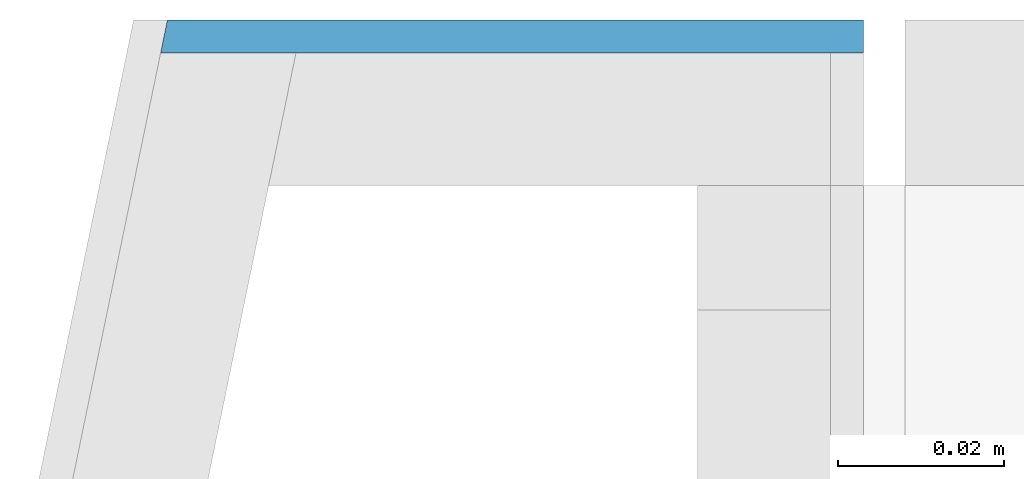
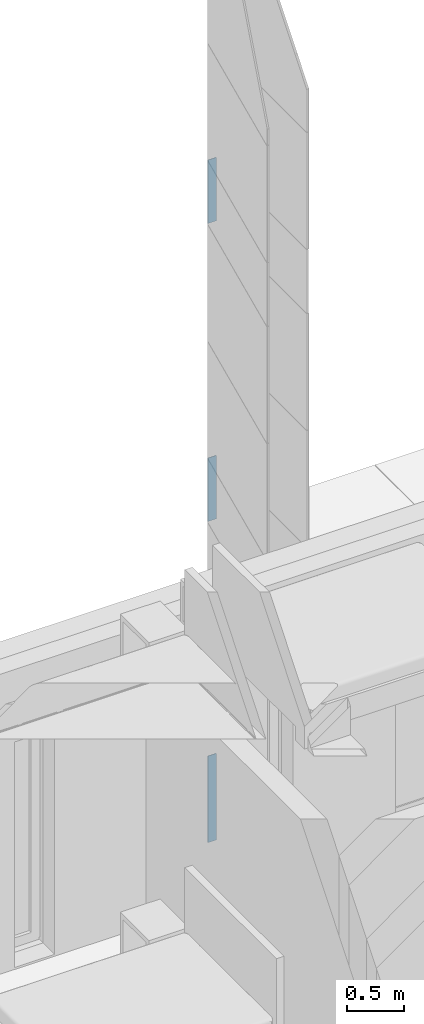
# One storey, part 35 of 125: 3 building element parts, 1 element without a shape of its own.
"""IFC2X3 building model written with IfcOpenShell, lengths in millimetres."""

import ifcopenshell
import ifcopenshell.guid

model = None  # the IFC model being written
_history = None  # IfcOwnerHistory: only IFC2X3 demands one
_inside = {}  # id of a spatial element -> (the spatial element, [elements in it])
_under = {}  # id of a project, library or spatial element -> (it, [spatial elements below it])
_declared = {}  # id of a project -> (the project, [libraries it declares])
_typed = {}  # id of a type object -> (the type object, [elements of that type])
_made_of = {}  # id of a material, layer set ... -> (it, [elements and type objects made of it])


def new_model(schema):
    """Start an empty IFC model of exactly this schema.

    Asked for "IFC4X3", IfcOpenShell would pick the latest addendum, in which some entities
    have other attributes; the version numbers below select the first issue.
    IFC2X3 requires an IfcOwnerHistory on every rooted entity: one is made here for all.
    """
    global model, _history
    if schema == "IFC4X3":
        model = ifcopenshell.file(schema_version=(4, 3, 0, 0))
    else:
        model = ifcopenshell.file(schema=schema)
    _inside.clear()
    _under.clear()
    _declared.clear()
    _typed.clear()
    _made_of.clear()
    _history = None
    if model.schema == "IFC2X3":
        org = make("IfcOrganization", Name="unknown")
        user = make(
            "IfcPersonAndOrganization",
            ThePerson=make("IfcPerson", FamilyName="unknown"),
            TheOrganization=org,
        )
        app = make(
            "IfcApplication",
            ApplicationDeveloper=org,
            Version="unknown",
            ApplicationFullName="unknown",
            ApplicationIdentifier="unknown",
        )
        _history = make(
            "IfcOwnerHistory",
            OwningUser=user,
            OwningApplication=app,
            ChangeAction="ADDED",
            CreationDate=0,
        )
    return model


def make(cls, **values):
    """One entity of the class cls with the attributes given. An attribute that is None is left unset."""
    return model.create_entity(
        cls, **{name: value for name, value in values.items() if value is not None}
    )


def entity(cls, *values):
    """Any entity or typed value of the class cls, its attributes in the order of the schema. None: left unset."""
    e = model.create_entity(cls)
    for i, value in enumerate(values):
        if value is not None:
            e[i] = value
    return e


def rooted(cls, **values):
    """An entity with a GlobalId (a new one), such as an element, a storey or a relation."""
    return make(cls, GlobalId=ifcopenshell.guid.new(), OwnerHistory=_history, **values)


def si_unit(unit_type, name, prefix=None):
    """IfcSIUnit, for example si_unit("LENGTHUNIT", "METRE", prefix="MILLI")."""
    return make("IfcSIUnit", UnitType=unit_type, Prefix=prefix, Name=name)


def converted_unit(unit_type, name, factor, base, dimensions=None, offset=None):
    """IfcConversionBasedUnit, such as the inch: factor (a typed value) times the base unit."""
    return make(
        "IfcConversionBasedUnit"
        if offset is None
        else "IfcConversionBasedUnitWithOffset",
        ConversionOffset=offset,
        Dimensions=None
        if dimensions is None
        else entity("IfcDimensionalExponents", *dimensions),
        UnitType=unit_type,
        Name=name,
        ConversionFactor=make(
            "IfcMeasureWithUnit", ValueComponent=factor, UnitComponent=base
        ),
    )


def assignment(units):
    """IfcUnitAssignment: the units of a project."""
    return None if units is None else make("IfcUnitAssignment", Units=units)


def point(xyz):
    """IfcCartesianPoint."""
    return None if xyz is None else make("IfcCartesianPoint", Coordinates=xyz)


def direction(xyz):
    """IfcDirection."""
    return None if xyz is None else make("IfcDirection", DirectionRatios=xyz)


def frame(location, z_axis=None, x_axis=None):
    """IfcAxis2Placement3D, a coordinate frame: its origin and axes. An axis left out is left unset."""
    return make(
        "IfcAxis2Placement3D",
        Location=point(location),
        Axis=direction(z_axis),
        RefDirection=direction(x_axis),
    )


def origin():
    """The frame at (0, 0, 0) with its axes left unset."""
    return frame((0.0, 0.0, 0.0))


def place(relative_to, where):
    """IfcLocalPlacement: puts the frame where relative to a parent placement (None: the world)."""
    return make(
        "IfcLocalPlacement", PlacementRelTo=relative_to, RelativePlacement=where
    )


def context(
    kind, dimensions, precision=None, world=None, true_north=None, identifier=None
):
    """IfcGeometricRepresentationContext, for example the 3D "Model" context."""
    return make(
        "IfcGeometricRepresentationContext",
        ContextIdentifier=identifier,
        ContextType=kind,
        CoordinateSpaceDimension=dimensions,
        Precision=precision,
        WorldCoordinateSystem=world,
        TrueNorth=true_north,
    )


def subcontext(parent, identifier, kind, view, scale=None):
    """IfcGeometricRepresentationSubContext, for example "Body" below "Model"."""
    return make(
        "IfcGeometricRepresentationSubContext",
        ContextIdentifier=identifier,
        ContextType=kind,
        ParentContext=parent,
        TargetScale=scale,
        TargetView=view,
    )


def project(units=None, contexts=None):
    """IfcProject with its units and contexts."""
    return rooted(
        "IfcProject",
        Name="project",
        RepresentationContexts=contexts,
        UnitsInContext=assignment(units),
    )


def spatial(cls, under=None, at=None, **own):
    """A site, building, storey or space (cls), placed at a placement, below another one or the project."""
    s = rooted(cls, ObjectPlacement=at, **own)
    if under is not None:
        _under.setdefault(under.id(), (under, []))[1].append(s)
    return s


def polyline(points):
    """IfcPolyline through the points."""
    return make("IfcPolyline", Points=[point(p) for p in points])


def outline(outer, holes=None, kind="AREA"):
    """IfcArbitraryClosedProfileDef: a profile drawn as a closed curve; with holes, ...WithVoids."""
    if holes is None:
        return make("IfcArbitraryClosedProfileDef", ProfileType=kind, OuterCurve=outer)
    return make(
        "IfcArbitraryProfileDefWithVoids",
        ProfileType=kind,
        OuterCurve=outer,
        InnerCurves=holes,
    )


def extrude(swept, where, along, depth):
    """IfcExtrudedAreaSolid: the profile swept, set in the frame where, extruded along a direction by depth."""
    return make(
        "IfcExtrudedAreaSolid",
        SweptArea=swept,
        Position=where,
        ExtrudedDirection=direction(along),
        Depth=depth,
    )


def shape(context_of_items, identifier, shape_type, items):
    """IfcShapeRepresentation: the items that make up one representation, for example the "Body"."""
    return make(
        "IfcShapeRepresentation",
        ContextOfItems=context_of_items,
        RepresentationIdentifier=identifier,
        RepresentationType=shape_type,
        Items=items,
    )


def material(Name=None, Category=None):
    """IfcMaterial."""
    return make("IfcMaterial", Name=Name, Category=Category)


def made_of(thing, what):
    """Note that an element or type object is made of a material, layer set ...; save() writes the relation."""
    if what is not None:
        _made_of.setdefault(what.id(), (what, []))[1].append(thing)
    return thing


def type_object(cls, material=None, **own):
    """A type object (cls), such as IfcWallType, which elements share."""
    return made_of(rooted(cls, **own), material)


def element(
    cls,
    number,
    at=None,
    inside=None,
    cuts=None,
    type_object=None,
    material=None,
    context=None,
    identifier="Body",
    shape_type=None,
    held_by="IfcProductDefinitionShape",
    body=None,
    shapes=None,
    **own,
):
    """One element of the class cls, such as IfcWall. Its Tag is "e" and its number.

    at: its placement. inside: the storey or other place that contains it. cuts: it is an
    opening in that element (IfcRelVoidsElement). A single representation is given by context,
    identifier, shape_type and body (its items); several are given by shapes. held_by: the class
    of the entity that holds the representations. save() writes the other relations.
    """
    e = rooted(cls, Tag="e%d" % number, ObjectPlacement=at, **own)
    if body is not None:
        shapes = [shape(context, identifier, shape_type, body)]
    if shapes is not None:
        e.Representation = make(held_by, Representations=shapes)
    if inside is not None:
        _inside.setdefault(inside.id(), (inside, []))[1].append(e)
    if cuts is not None:
        rooted(
            "IfcRelVoidsElement", RelatingBuildingElement=cuts, RelatedOpeningElement=e
        )
    if type_object is not None:
        _typed.setdefault(type_object.id(), (type_object, []))[1].append(e)
    return made_of(e, material)


def aggregate(whole, parts):
    """IfcRelAggregates: a whole, such as a stair, and the parts it consists of."""
    return rooted("IfcRelAggregates", RelatingObject=whole, RelatedObjects=parts)


def save(model, path):
    """Write the relations noted so far, then the file.

    IfcRelAggregates (storeys below a building ...), IfcRelContainedInSpatialStructure (elements
    in a storey), IfcRelDefinesByType, IfcRelAssociatesMaterial and IfcRelDeclares: one each for
    every whole, place, type object, material and project.
    """
    for whole, parts in _under.values():
        aggregate(whole, parts)
    for where, things in _inside.values():
        rooted(
            "IfcRelContainedInSpatialStructure",
            RelatedElements=things,
            RelatingStructure=where,
        )
    for kind, things in _typed.values():
        rooted("IfcRelDefinesByType", RelatedObjects=things, RelatingType=kind)
    for what, things in _made_of.values():
        rooted("IfcRelAssociatesMaterial", RelatedObjects=things, RelatingMaterial=what)
    for by, libraries in _declared.values():
        rooted("IfcRelDeclares", RelatingContext=by, RelatedDefinitions=libraries)
    model.write(path)


model = new_model("IFC2X3")

# Units and contexts
model_context = context("Model", 3, precision=0.01, world=origin(), true_north=direction((6.123233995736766e-17, 1.0)))
plan_context = context("Plan", 3, precision=0.01, world=origin(), true_north=direction((6.123233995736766e-17, 1.0)))
body_context = subcontext(model_context, "Body", "Model", "MODEL_VIEW")
ifc_project = project(units=[si_unit("LENGTHUNIT", "METRE", prefix="MILLI"), converted_unit("PLANEANGLEUNIT", "DEGREE", entity("IfcPlaneAngleMeasure", 0.017453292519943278), si_unit("PLANEANGLEUNIT", "RADIAN"), dimensions=[0, 0, 0, 0, 0, 0, 0]), si_unit("AREAUNIT", "SQUARE_METRE")], contexts=[model_context, plan_context])

# Site, building, storey
site_placement = place(None, origin())
site = spatial("IfcSite", under=ifc_project, at=site_placement, Name="Default", CompositionType="ELEMENT")
building_placement = place(site_placement, origin())
building = spatial("IfcBuilding", under=site, at=building_placement, CompositionType="ELEMENT")
storey_placement = place(building_placement, frame((0.0, 0.0, 3125.0)))
storey = spatial("IfcBuildingStorey", under=building, at=storey_placement, Name="2K", CompositionType="ELEMENT", Elevation=3125.0)

# Wall, building element parts
wall_type = type_object("IfcWallType", Name="Basic Wall:VS-komposiit", PredefinedType="STANDARD")
wall_placement = place(storey_placement, frame((4963.640832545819, 17442.0, -1010.0)))
wall = element("IfcWall", 1, at=wall_placement, inside=storey, type_object=wall_type, Name="Basic Wall:VS-komposiit", ObjectType="Basic Wall:VS-komposiit")
ifc_material = material(Name="_K. Välisviimistlus. Alumiinium-komposiitplaat")
building_element_part_1_placement = place(wall_placement, origin())
building_element_part_1 = element("IfcBuildingElementPart", 2, at=building_element_part_1_placement, material=ifc_material, Name="Part", context=body_context, shape_type="SweptSolid", body=[
    extrude(outline(polyline([(-42.61260185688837, -2.0), (42.20013519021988, -2.0), (42.20013519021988, 2.0), (-41.78766852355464, 2.0), (-42.61260185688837, -2.0)])), frame((29.57562070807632, 8.0, 0.0)), (0.0, 0.0, 1.0), 922.4999999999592),
])
building_element_part_2_placement = place(wall_placement, origin())
building_element_part_2 = element("IfcBuildingElementPart", 3, at=building_element_part_2_placement, material=ifc_material, Name="Part", context=body_context, shape_type="SweptSolid", body=[
    extrude(outline(polyline([(-42.61260185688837, -2.0), (42.20013519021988, -2.0), (42.20013519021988, 2.0), (-41.78766852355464, 2.0), (-42.61260185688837, -2.0)])), frame((29.57562070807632, 8.0, 3417.499999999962)), (0.0, 0.0, 1.0), 674.999999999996),
])
building_element_part_3_placement = place(wall_placement, origin())
building_element_part_3 = element("IfcBuildingElementPart", 4, at=building_element_part_3_placement, material=ifc_material, Name="Part", context=body_context, shape_type="SweptSolid", body=[
    extrude(outline(polyline([(-42.61260185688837, -2.0), (42.20013519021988, -2.0), (42.20013519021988, 2.0), (-41.78766852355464, 2.0), (-42.61260185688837, -2.0)])), frame((29.57562070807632, 8.0, 6587.499999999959)), (0.0, 0.0, 1.0), 674.999999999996),
])
aggregate(wall, [building_element_part_1, building_element_part_2, building_element_part_3])

save(model, "model.ifc")
